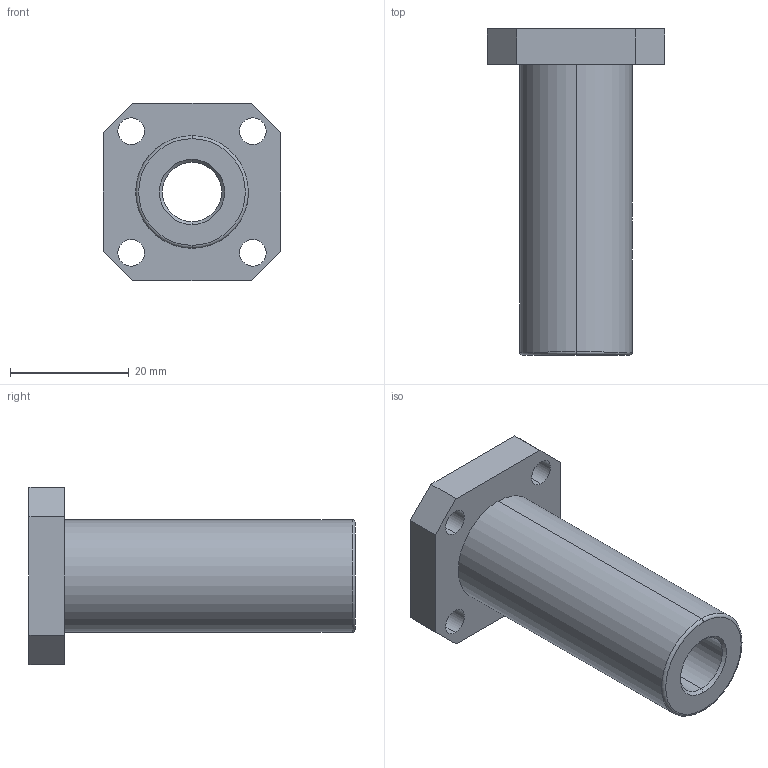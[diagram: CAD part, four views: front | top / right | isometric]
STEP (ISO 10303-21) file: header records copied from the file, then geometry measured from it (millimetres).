
FILE_DESCRIPTION (( 'STEP AP203' ), '1' );
FILE_NAME ('LMK10LUU.STEP', '2017-08-10T13:10:36', ( '' ), ( '' ), 'SwSTEP 2.0', 'SolidWorks 2017', '' );
FILE_SCHEMA (( 'CONFIG_CONTROL_DESIGN' ));
Length unit declared in the file: millimetre
Products named in the file (1): LMK10LUU
Bounding box: 30 x 55 x 30 mm (x, y, z)
Volume: 14281 mm3; surface area: 7050.6 mm2
Topology: 1 solids, 1 shells, 111 faces, 299 edges, 198 vertices
Faces by surface type: plane 56, bspline 32, cylinder 19, cone 2, torus 2
Entity records: 7365 total; most frequent: CARTESIAN_POINT 4720, ORIENTED_EDGE 598, DIRECTION 426, EDGE_CURVE 299, VERTEX_POINT 198, AXIS2_PLACEMENT_3D 162, EDGE_LOOP 129, B_SPLINE_CURVE_WITH_KNOTS 115
